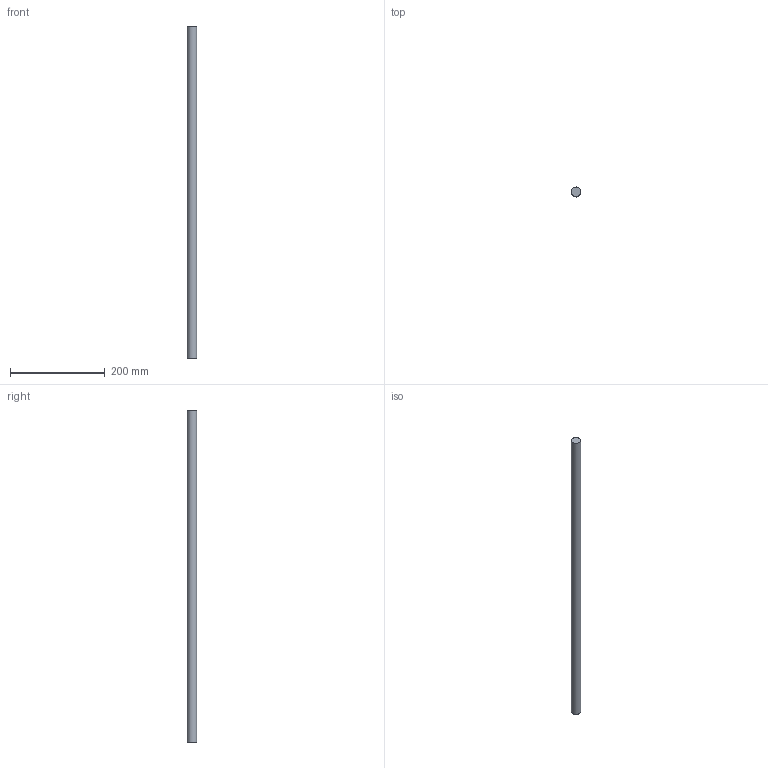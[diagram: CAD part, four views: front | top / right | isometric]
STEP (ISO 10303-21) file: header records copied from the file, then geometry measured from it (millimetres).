
FILE_DESCRIPTION(/* description */ (''),/* implementation_level */ '2;1');
FILE_NAME(/* name */ 'C:\Users\David\Desktop\stepFiles\Profilfuehrung\WF20x700.stp',/* time_stamp */ '2018-06-24T15:49:03+02:00',/* author */ ('David'),/* organization */ (''),/* preprocessor_version */ 'ST-DEVELOPER v17',/* originating_system */ 'Autodesk Inventor 2019',/* authorisation */ '');
FILE_SCHEMA (('AUTOMOTIVE_DESIGN { 1 0 10303 214 3 1 1 }'));
Length unit declared in the file: millimetre
Products named in the file (1): Wellenfuehrung
Bounding box: 20 x 20 x 700 mm (x, y, z)
Volume: 219911.5 mm3; surface area: 44610.6 mm2
Topology: 1 solids, 1 shells, 3 faces, 3 edges, 2 vertices
Faces by surface type: plane 2, cylinder 1
Full cylindrical faces by diameter (mm): 20 x1
Entity records: 98 total; most frequent: DIRECTION 13, CARTESIAN_POINT 9, ORIENTED_EDGE 6, AXIS2_PLACEMENT_3D 6, FACE_OUTER_BOUND 3, EDGE_LOOP 3, EDGE_CURVE 3, ADVANCED_FACE 3
